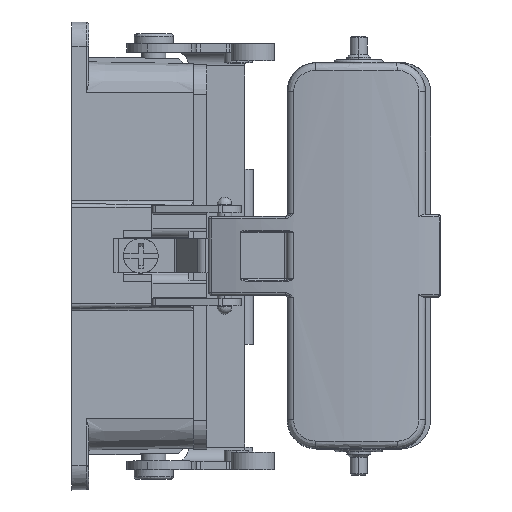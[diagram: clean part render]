
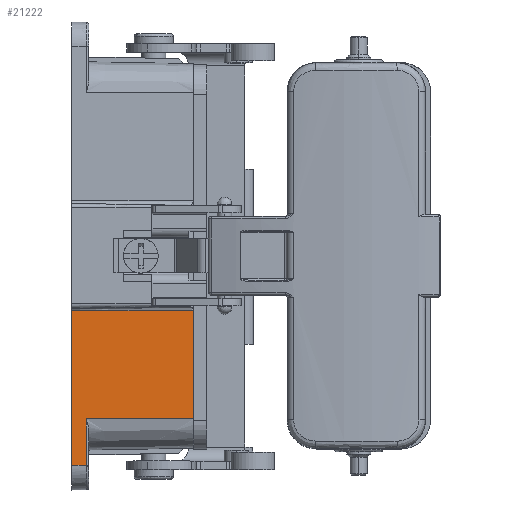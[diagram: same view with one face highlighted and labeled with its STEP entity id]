
A CAD part, top view. The second image highlights one B-rep face of the part: STEP entity #21222.
In plain terms, the highlighted planar face has unit normal (0.018, 0, 1).
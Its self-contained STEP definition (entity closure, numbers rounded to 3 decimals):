
#1299=DIRECTION('',(0.,1.,0.));
#1300=VECTOR('',#1299,31.748);
#1301=CARTESIAN_POINT('',(-26.712,-43.062,
15.186));
#1302=LINE('',#1301,#1300);
#1307=CARTESIAN_POINT('',(-26.712,-43.062,
15.186));
#1467=DIRECTION('',(1.,0.,-0.017));
#1468=VECTOR('',#1467,25.004);
#1469=CARTESIAN_POINT('',(-26.712,-11.314,
15.186));
#1470=LINE('',#1469,#1468);
#1503=CARTESIAN_POINT('',(-1.712,-11.315,
14.75));
#6176=DIRECTION('',(0.,-1.,0.));
#6177=VECTOR('',#6176,22.186);
#6178=CARTESIAN_POINT('',(-1.712,-11.315,
14.75));
#6179=LINE('',#6178,#6177);
#6217=DIRECTION('',(-1.,0.,0.017));
#6218=VECTOR('',#6217,21.995);
#6219=CARTESIAN_POINT('',(-1.711,-33.501,
14.75));
#6220=LINE('',#6219,#6218);
#6733=DIRECTION('',(-1.,0.,0.017));
#6734=VECTOR('',#6733,3.009);
#6735=CARTESIAN_POINT('',(-23.703,-43.062,
15.134));
#6736=LINE('',#6735,#6734);
#6737=DIRECTION('',(0.,-1.,0.));
#6738=VECTOR('',#6737,9.561);
#6739=CARTESIAN_POINT('',(-23.703,-33.501,
15.134));
#6740=LINE('',#6739,#6738);
#9800=VERTEX_POINT('',#1307);
#10043=CARTESIAN_POINT('',(-23.703,-33.501,
15.134));
#10044=CARTESIAN_POINT('',(-23.703,-43.062,
15.134));
#10045=VERTEX_POINT('',#10043);
#10046=VERTEX_POINT('',#10044);
#10091=VERTEX_POINT('',#1503);
#10360=CARTESIAN_POINT('',(-26.712,-11.314,
15.186));
#10361=VERTEX_POINT('',#10360);
#10423=CARTESIAN_POINT('',(-1.711,-33.501,
14.75));
#10424=VERTEX_POINT('',#10423);
#21205=CARTESIAN_POINT('',(-26.712,-43.062,
15.186));
#21206=DIRECTION('',(0.017,0.,1.));
#21207=DIRECTION('',(-1.,0.,0.017));
#21208=AXIS2_PLACEMENT_3D('',#21205,#21206,#21207);
#21209=PLANE('',#21208);
#21211=ORIENTED_EDGE('',*,*,#21210,.T.);
#21213=ORIENTED_EDGE('',*,*,#21212,.T.);
#21215=ORIENTED_EDGE('',*,*,#21214,.T.);
#21217=ORIENTED_EDGE('',*,*,#21216,.T.);
#21218=ORIENTED_EDGE('',*,*,#12123,.T.);
#21219=ORIENTED_EDGE('',*,*,#12223,.T.);
#21220=EDGE_LOOP('',(#21211,#21213,#21215,#21217,#21218,#21219));
#21221=FACE_OUTER_BOUND('',#21220,.F.);
#21222=ADVANCED_FACE('',(#21221),#21209,.T.);
#12123=EDGE_CURVE('',#9800,#10361,#1302,.T.);
#12223=EDGE_CURVE('',#10361,#10091,#1470,.T.);
#21210=EDGE_CURVE('',#10091,#10424,#6179,.T.);
#21212=EDGE_CURVE('',#10424,#10045,#6220,.T.);
#21214=EDGE_CURVE('',#10045,#10046,#6740,.T.);
#21216=EDGE_CURVE('',#10046,#9800,#6736,.T.);
